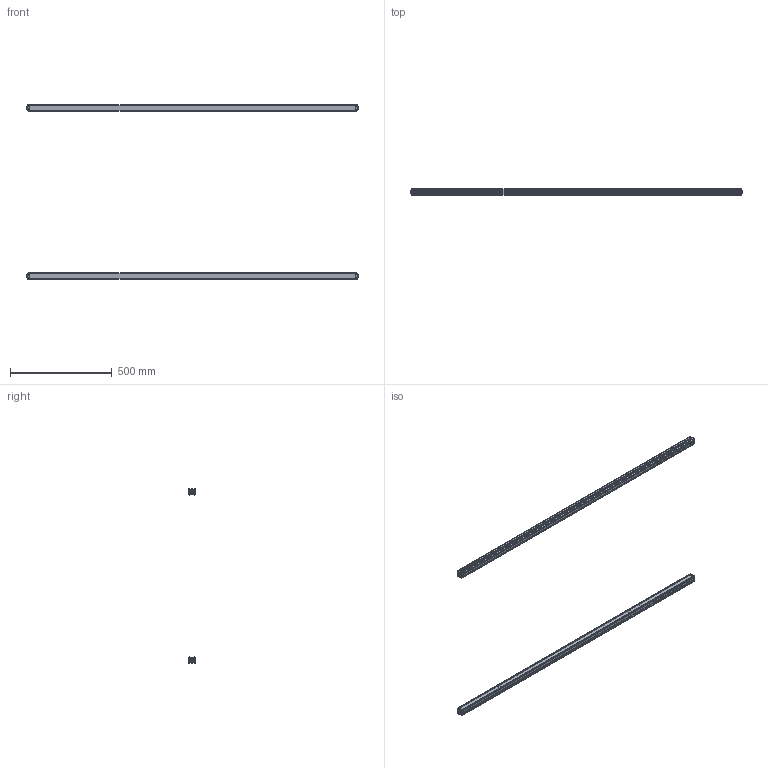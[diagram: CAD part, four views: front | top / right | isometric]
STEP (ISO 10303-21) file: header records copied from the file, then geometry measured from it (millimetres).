
FILE_DESCRIPTION(/* description */ (''),/* implementation_level */ '2;1');
FILE_NAME(/* name */ 'THS40-40.stp',/* time_stamp */ '2023-08-07T10:44:19+08:00',/* author */ (''),/* organization */ (''),/* preprocessor_version */ 'ST-DEVELOPER v16',/* originating_system */ 'SIEMENS PLM Software NX 11.0',/* authorisation */ '');
FILE_SCHEMA (('AP203_CONFIGURATION_CONTROLLED_3D_DESIGN_OF_MECHANICAL_PARTS_AND_ASSEMBLIES_MIM_LF { 1 0 10303 403 2 1 2}'));
Length unit declared in the file: millimetre
Products named in the file (10): 8; 7; 5; 4; 3; 2; 1; ASM0_ASM; 000000_ASM; THS40-30_stp
Assembly tree (10 placements, depth 4):
  THS40-30_stp
    000000_ASM  x2
      1
      2
      3
      4
      5
      ASM0_ASM
        7
        8
Bounding box: 1632 x 30.3 x 858.6 mm (x, y, z)
Volume: 1063239.8 mm3; surface area: 1160316.4 mm2
Topology: 10 solids, 14 shells, 1704 faces, 4642 edges, 2986 vertices
Faces by surface type: plane 1364, cylinder 280, cone 60
Entity records: 27983 total; most frequent: CARTESIAN_POINT 4878, ORIENTED_EDGE 4638, DIRECTION 4385, EDGE_CURVE 2321, LINE 1969, VECTOR 1969, VERTEX_POINT 1493, AXIS2_PLACEMENT_3D 1208
